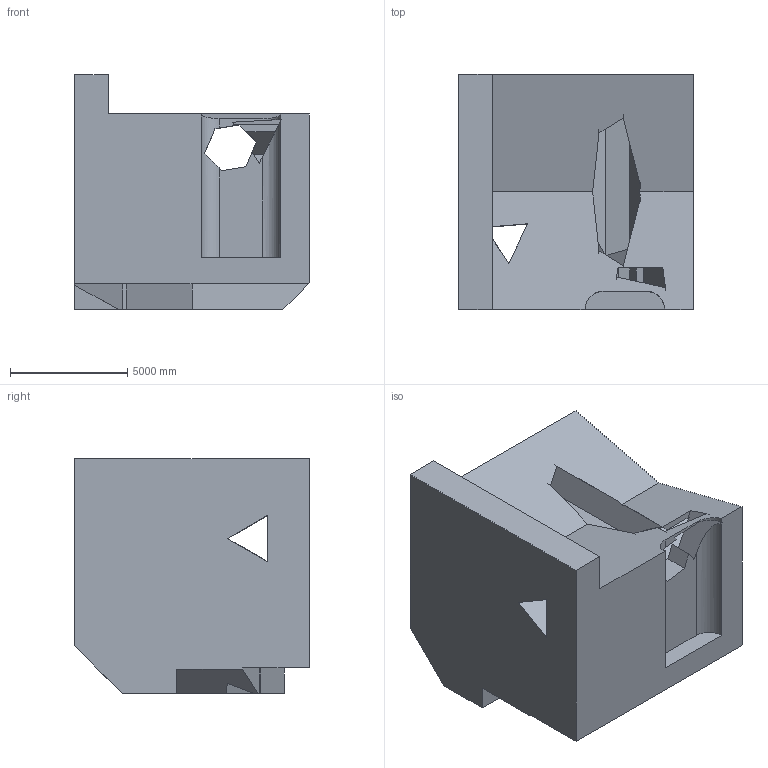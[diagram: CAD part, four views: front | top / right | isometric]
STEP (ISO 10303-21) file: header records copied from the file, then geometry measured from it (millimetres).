
FILE_DESCRIPTION (( 'STEP AP203' ), '1' );
FILE_NAME ('392.STEP', '2022-09-07T13:30:00', ( 'user' ), ( '' ), 'SwSTEP 2.0', 'SolidWorks 2021', '' );
FILE_SCHEMA (( 'CONFIG_CONTROL_DESIGN' ));
Length unit declared in the file: centimetre
Products named in the file (1): 392
Bounding box: 10000 x 10000 x 10000 mm (x, y, z)
Volume: 688959860047.1 mm3; surface area: 658159667.2 mm2
Topology: 1 solids, 1 shells, 48 faces, 168 edges, 112 vertices
Faces by surface type: plane 45, cylinder 3
Entity records: 1879 total; most frequent: CARTESIAN_POINT 350, ORIENTED_EDGE 336, DIRECTION 261, EDGE_CURVE 168, LINE 159, VECTOR 159, VERTEX_POINT 112, EDGE_LOOP 52
